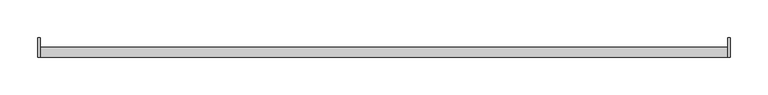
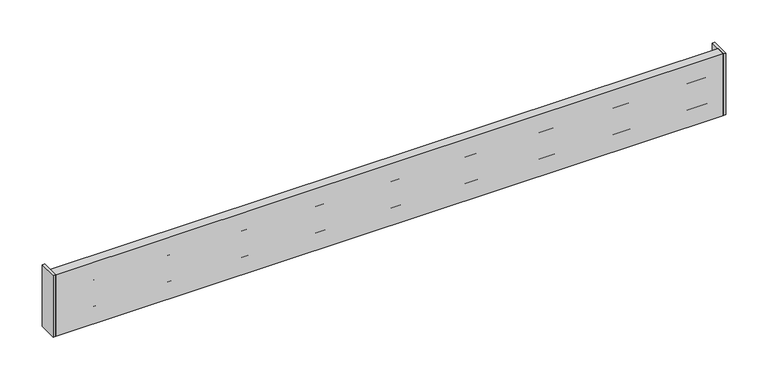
"""IFC4 building model written with IfcOpenShell, lengths in millimetres: furniture geometry."""

from ifc_helpers import new_model, si_unit, frame, origin, place, context, project, spatial, polyline, outline, extrude, source, transform, mapped, element, save


def furniture_024b4420(model_context):
    return source(origin(), model_context, "Body", "SweptSolid", [
        extrude(outline(polyline([(-454.025, 12.6999996), (-454.025, -12.7000004), (-457.2, -12.7000004), (-457.2, 12.6999996), (-454.025, 12.6999996)])), frame((0.0, 0.0, 825.5), z_axis=(0.0, 0.0, 1.0), x_axis=(1.0, 0.0, 0.0)), (0.0, 0.0, 1.0), 88.9),
        extrude(outline(polyline([(457.2, 12.6999996), (457.2, -12.7000004), (454.025, -12.7000004), (454.025, 12.6999996), (457.2, 12.6999996)])), frame((0.0, 0.0, 825.5), z_axis=(0.0, 0.0, 1.0), x_axis=(1.0, 0.0, 0.0)), (0.0, 0.0, 1.0), 88.9),
        extrude(outline(polyline([(454.025, 0.0), (454.025, -12.7000004), (-454.025, -12.7000004), (-454.025, 0.0), (454.025, 0.0)])), frame((0.0, 0.0, 825.5), z_axis=(0.0, 0.0, 1.0), x_axis=(1.0, 0.0, 0.0)), (0.0, 0.0, 1.0), 88.9),
        extrude(outline(polyline([(-12.7000004, 901.6999966), (-12.7000004, 914.4), (0.0, 914.4), (0.0, 825.5), (-12.7000004, 825.5), (-12.7000004, 850.8999966), (-3.1750002, 850.8999966), (-3.1750002, 863.5999966), (-12.7000004, 863.5999966), (-12.7000004, 888.9999966), (-3.1750002, 888.9999966), (-3.1750002, 901.6999966), (-12.7000004, 901.6999966)])), frame((-454.025, 0.0, 0.0), z_axis=(1.0, 0.0, 0.0), x_axis=(0.0, 1.0, 0.0)), (0.0, 0.0, 1.0), 908.05),
        extrude(outline(polyline([(-12.7000004, 914.4), (0.0, 914.4), (0.0, 901.6999966), (12.6999996, 901.6999966), (12.6999996, 838.199997), (0.0, 838.199997), (0.0, 825.5), (-12.7000004, 825.5), (-12.7000004, 914.4)])), frame((-457.2, 0.0, 0.0), z_axis=(1.0, 0.0, 0.0), x_axis=(0.0, 1.0, 0.0)), (0.0, 0.0, 1.0), 3.175),
        extrude(outline(polyline([(-12.7000004, 914.4), (0.0, 914.4), (0.0, 901.6999966), (12.6999996, 901.6999966), (12.6999996, 838.199997), (0.0, 838.199997), (0.0, 825.5), (-12.7000004, 825.5), (-12.7000004, 914.4)])), frame((454.025, 0.0, 0.0), z_axis=(1.0, 0.0, 0.0), x_axis=(0.0, 1.0, 0.0)), (0.0, 0.0, 1.0), 3.175),
    ])


if __name__ == "__main__":
    model = new_model("IFC4")
    model_context = context("Model", 3, world=origin())
    ifc_project = project(units=[si_unit("LENGTHUNIT", "METRE", prefix="MILLI")], contexts=[model_context])
    site = spatial("IfcSite", under=ifc_project)
    building = spatial("IfcBuilding", under=site)
    placement = place(None, origin())
    furniture_shape = furniture_024b4420(model_context)
    element("IfcFurniture", 1, ObjectType="HermanMiller_ActionOffice_A3610_ToolBar : 4\"H x 36\"W", at=placement, inside=building, context=model_context, shape_type="MappedRepresentation", body=[
        mapped(furniture_shape, transform((0.0, 0.0, 0.0), x_axis=(1.0, 0.0, 0.0), y_axis=(0.0, 1.0, 0.0), z_axis=(0.0, 0.0, 1.0))),
    ])
    save(model, "model.ifc")
